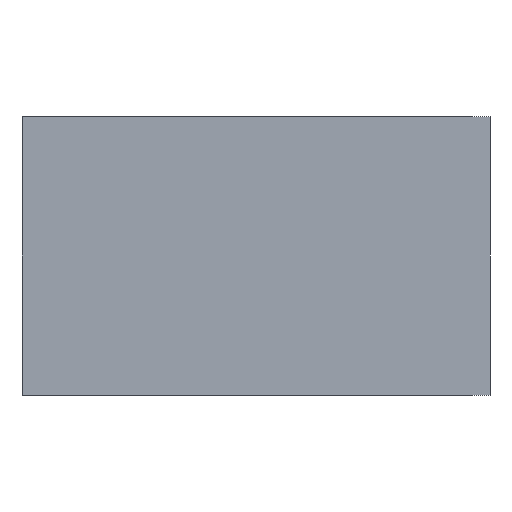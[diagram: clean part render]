
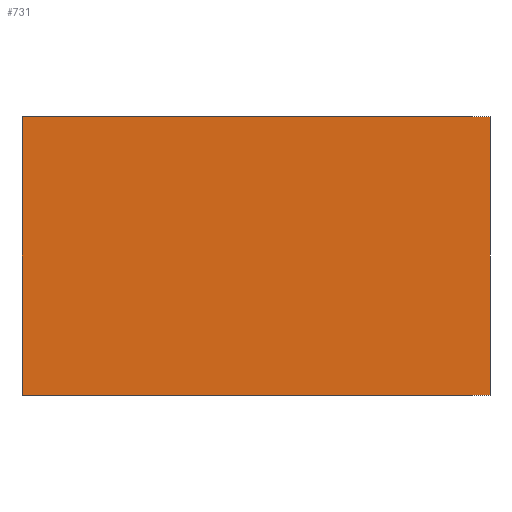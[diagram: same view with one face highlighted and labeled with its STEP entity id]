
A CAD part, front view. The second image highlights one B-rep face of the part: STEP entity #731.
In plain terms, the highlighted planar face has unit normal (0, -1, 0).
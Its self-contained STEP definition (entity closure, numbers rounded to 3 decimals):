
#7 = VERTEX_POINT ( 'NONE', #309 ) ;
#9 = VERTEX_POINT ( 'NONE', #316 ) ;
#14 = DIRECTION ( 'NONE',  ( 1., 0., 0. ) ) ;
#17 = VERTEX_POINT ( 'NONE', #31 ) ;
#31 = CARTESIAN_POINT ( 'NONE',  ( 101., 0., 0. ) ) ;
#56 = CARTESIAN_POINT ( 'NONE',  ( -101., 0., 0. ) ) ;
#94 = CARTESIAN_POINT ( 'NONE',  ( 101., 0., 120. ) ) ;
#106 = CARTESIAN_POINT ( 'NONE',  ( -101., 0., 120. ) ) ;
#118 = DIRECTION ( 'NONE',  ( 0., 0., -1. ) ) ;
#158 = CARTESIAN_POINT ( 'NONE',  ( -101., 0., 0. ) ) ;
#159 = DIRECTION ( 'NONE',  ( 1., 0., 0. ) ) ;
#166 = CARTESIAN_POINT ( 'NONE',  ( -101., 0., 120. ) ) ;
#167 = DIRECTION ( 'NONE',  ( 0., 0., -1. ) ) ;
#217 = PLANE ( 'NONE',  #404 ) ;
#220 = CARTESIAN_POINT ( 'NONE',  ( -101., 0., 120. ) ) ;
#230 = DIRECTION ( 'NONE',  ( 0., 1., 0. ) ) ;
#231 = DIRECTION ( 'NONE',  ( -1., 0., 0. ) ) ;
#303 = VERTEX_POINT ( 'NONE', #56 ) ;
#309 = CARTESIAN_POINT ( 'NONE',  ( -101., 0., 120. ) ) ;
#316 = CARTESIAN_POINT ( 'NONE',  ( 101., 0., 120. ) ) ;
#341 = EDGE_CURVE ( 'NONE', #7, #9, #615, .T. ) ;
#348 = EDGE_CURVE ( 'NONE', #9, #17, #618, .T. ) ;
#381 = EDGE_CURVE ( 'NONE', #303, #17, #630, .T. ) ;
#387 = EDGE_CURVE ( 'NONE', #7, #303, #435, .T. ) ;
#404 = AXIS2_PLACEMENT_3D ( 'NONE', #220, #230, #231 ) ;
#412 = EDGE_LOOP ( 'NONE', ( #565, #610, #566, #567 ) ) ;
#434 = VECTOR ( 'NONE', #167, 1000. ) ;
#435 = LINE ( 'NONE', #166, #434 ) ;
#565 = ORIENTED_EDGE ( 'NONE', *, *, #381, .T. ) ;
#566 = ORIENTED_EDGE ( 'NONE', *, *, #341, .F. ) ;
#567 = ORIENTED_EDGE ( 'NONE', *, *, #387, .T. ) ;
#610 = ORIENTED_EDGE ( 'NONE', *, *, #348, .F. ) ;
#614 = VECTOR ( 'NONE', #14, 1000. ) ;
#615 = LINE ( 'NONE', #106, #614 ) ;
#618 = LINE ( 'NONE', #94, #635 ) ;
#630 = LINE ( 'NONE', #158, #631 ) ;
#631 = VECTOR ( 'NONE', #159, 1000. ) ;
#635 = VECTOR ( 'NONE', #118, 1000. ) ;
#664 = FACE_OUTER_BOUND ( 'NONE', #412, .T. ) ;
#731 = ADVANCED_FACE ( 'NONE', ( #664 ), #217, .F. ) ;
